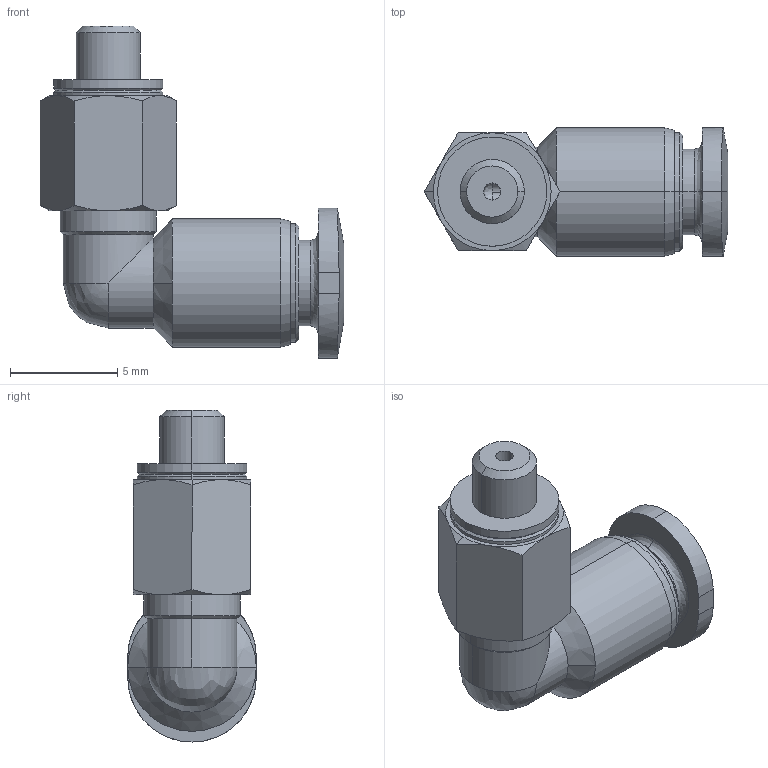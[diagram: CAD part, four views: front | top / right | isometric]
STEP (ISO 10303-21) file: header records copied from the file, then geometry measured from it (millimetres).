
FILE_DESCRIPTION (( 'STEP AP203' ), '1' );
FILE_NAME ('14010069.STEP', '2019-02-15T12:32:40', ( '' ), ( '' ), 'SwSTEP 2.0', 'SolidWorks 2015', '' );
FILE_SCHEMA (( 'CONFIG_CONTROL_DESIGN' ));
Length unit declared in the file: millimetre
Products named in the file (1): 14010069
Bounding box: 14.18 x 6 x 15.5 mm (x, y, z)
Volume: 406.4 mm3; surface area: 591.2 mm2
Topology: 1 solids, 1 shells, 79 faces, 176 edges, 102 vertices
Faces by surface type: cone 30, cylinder 27, plane 16, bspline 6
Entity records: 2453 total; most frequent: CARTESIAN_POINT 677, DIRECTION 368, ORIENTED_EDGE 346, EDGE_CURVE 173, AXIS2_PLACEMENT_3D 157, VERTEX_POINT 102, EDGE_LOOP 87, CIRCLE 83
